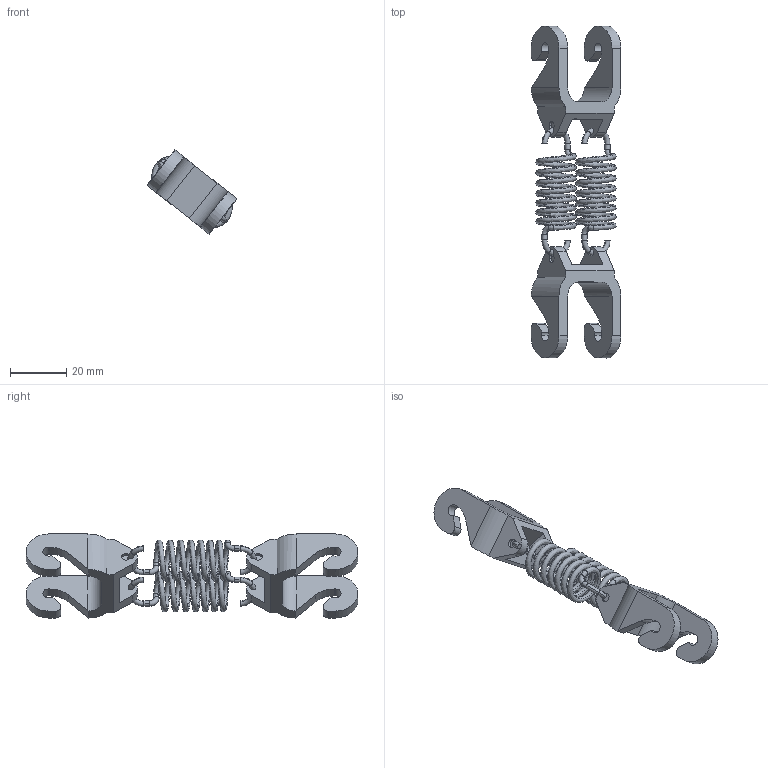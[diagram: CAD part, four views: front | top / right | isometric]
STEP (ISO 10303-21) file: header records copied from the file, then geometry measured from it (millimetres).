
FILE_DESCRIPTION (( 'STEP AP214' ), '1' );
FILE_NAME ('IRB360_8-1130-STD-4D_rev03_LA1_CU_CAD.step', '2025-01-14T07:05:11', ( '' ), ( '' ), 'SwSTEP 2.0', 'SolidWorks 2022', '' );
FILE_SCHEMA (( 'AUTOMOTIVE_DESIGN' ));
Length unit declared in the file: millimetre
Products named in the file (1): IRB360_8-1130-STD-4D_rev03_LA1_CU_CAD
Bounding box: 31.9 x 118 x 29.88 mm (x, y, z)
Volume: 11802.7 mm3; surface area: 10699.5 mm2
Topology: 1 solids, 1 shells, 156 faces, 420 edges, 272 vertices
Faces by surface type: plane 54, cylinder 50, torus 40, bspline 12
Entity records: 10548 total; most frequent: CARTESIAN_POINT 5915, ORIENTED_EDGE 840, DIRECTION 830, EDGE_CURVE 420, AXIS2_PLACEMENT_3D 333, VERTEX_POINT 272, CIRCLE 188, VECTOR 164
